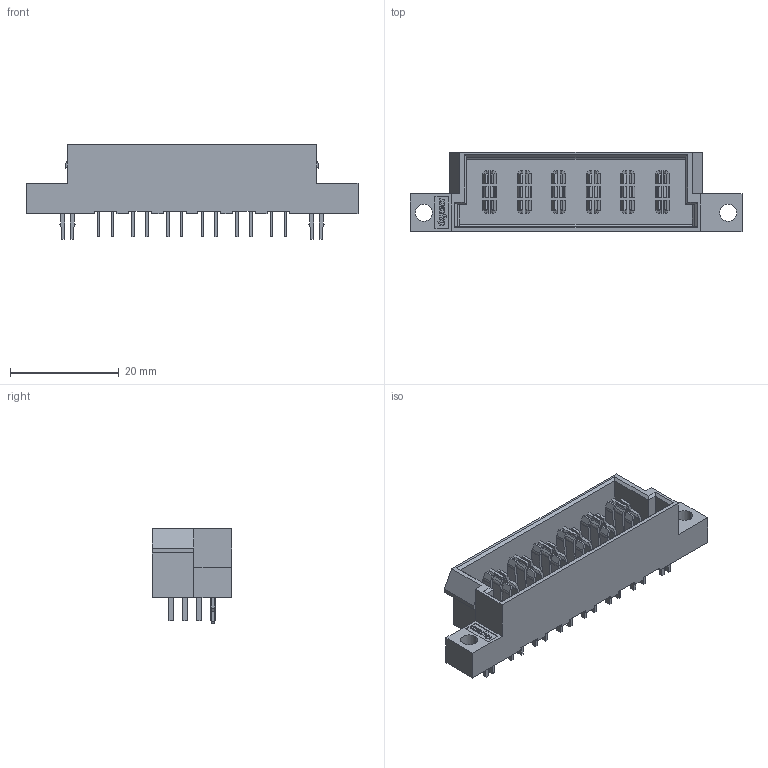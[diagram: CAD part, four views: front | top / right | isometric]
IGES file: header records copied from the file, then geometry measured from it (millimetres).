
Start section:  PTC IGES file: c-6600393-3-a1-3d.igs
Global section: file name: c-6600393-3-a1-3d.igs; native system: Pro/ENGINEER by Parametric Technology Corporation; preprocessor: 2010430; author: workeradm; organization: Unknown; units: millimetre
Bounding box: 60.96 x 14.58 x 17.4 mm (x, y, z)
Surface area: 6336.3 mm2 (no closed solid volume)
Topology: 0 solids, 0 shells, 805 faces, 4224 edges, 4224 vertices
Faces by surface type: bspline 673, revolution 132
